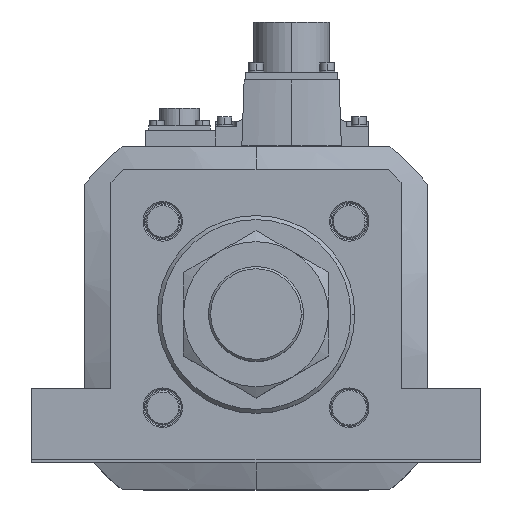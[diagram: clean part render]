
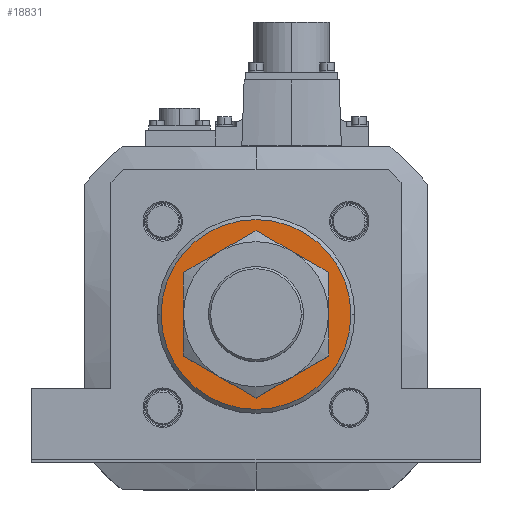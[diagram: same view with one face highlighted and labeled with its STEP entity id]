
A CAD part, top view. The second image highlights one B-rep face of the part: STEP entity #18831.
In plain terms, the highlighted planar face has unit normal (0, 0, 1).
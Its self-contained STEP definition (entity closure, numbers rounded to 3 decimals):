
#177 = CARTESIAN_POINT ( 'NONE',  ( 0., 0., 546. ) ) ;
#441 = CARTESIAN_POINT ( 'NONE',  ( 23., 0., 546. ) ) ;
#746 = AXIS2_PLACEMENT_3D ( 'NONE', #177, #5982, #37984 ) ;
#3300 = CARTESIAN_POINT ( 'NONE',  ( 0., 0., 546. ) ) ;
#4454 = CIRCLE ( 'NONE', #746, 36. ) ;
#5233 = ORIENTED_EDGE ( 'NONE', *, *, #29556, .T. ) ;
#5637 = CARTESIAN_POINT ( 'NONE',  ( -23., 0., 546. ) ) ;
#5662 = DIRECTION ( 'NONE',  ( 0., 0., 1. ) ) ;
#5982 = DIRECTION ( 'NONE',  ( 0., 0., 1. ) ) ;
#6223 = CIRCLE ( 'NONE', #17046, 36. ) ;
#7573 = CARTESIAN_POINT ( 'NONE',  ( 36., 0., 546. ) ) ;
#8073 = EDGE_CURVE ( 'NONE', #27049, #9568, #9968, .T. ) ;
#8372 = VERTEX_POINT ( 'NONE', #7573 ) ;
#8482 = DIRECTION ( 'NONE',  ( 1., 0., 0. ) ) ;
#8728 = EDGE_CURVE ( 'NONE', #12368, #8372, #4454, .T. ) ;
#9568 = VERTEX_POINT ( 'NONE', #5637 ) ;
#9968 = CIRCLE ( 'NONE', #25937, 23. ) ;
#11617 = FACE_BOUND ( 'NONE', #33990, .T. ) ;
#11728 = DIRECTION ( 'NONE',  ( 1., 0., 0. ) ) ;
#12235 = DIRECTION ( 'NONE',  ( 0., 0., -1. ) ) ;
#12368 = VERTEX_POINT ( 'NONE', #24799 ) ;
#12633 = AXIS2_PLACEMENT_3D ( 'NONE', #3300, #21335, #23936 ) ;
#13881 = CARTESIAN_POINT ( 'NONE',  ( 0., 0., 546. ) ) ;
#15417 = ORIENTED_EDGE ( 'NONE', *, *, #17098, .T. ) ;
#16439 = DIRECTION ( 'NONE',  ( 1., 0., 0. ) ) ;
#17046 = AXIS2_PLACEMENT_3D ( 'NONE', #31866, #5662, #8482 ) ;
#17098 = EDGE_CURVE ( 'NONE', #8372, #12368, #6223, .T. ) ;
#18367 = PLANE ( 'NONE',  #12633 ) ;
#18831 = ADVANCED_FACE ( 'NONE', ( #11617, #24568 ), #18367, .T. ) ;
#21335 = DIRECTION ( 'NONE',  ( 0., 0., 1. ) ) ;
#23862 = ORIENTED_EDGE ( 'NONE', *, *, #8728, .T. ) ;
#23863 = CARTESIAN_POINT ( 'NONE',  ( 0., 0., 546. ) ) ;
#23936 = DIRECTION ( 'NONE',  ( 1., 0., 0. ) ) ;
#24440 = CIRCLE ( 'NONE', #29592, 23. ) ;
#24568 = FACE_OUTER_BOUND ( 'NONE', #31548, .T. ) ;
#24799 = CARTESIAN_POINT ( 'NONE',  ( -36., 0., 546. ) ) ;
#25937 = AXIS2_PLACEMENT_3D ( 'NONE', #23863, #12235, #11728 ) ;
#27049 = VERTEX_POINT ( 'NONE', #441 ) ;
#29556 = EDGE_CURVE ( 'NONE', #9568, #27049, #24440, .T. ) ;
#29592 = AXIS2_PLACEMENT_3D ( 'NONE', #13881, #31689, #16439 ) ;
#29731 = ORIENTED_EDGE ( 'NONE', *, *, #8073, .T. ) ;
#31548 = EDGE_LOOP ( 'NONE', ( #23862, #15417 ) ) ;
#31689 = DIRECTION ( 'NONE',  ( 0., 0., -1. ) ) ;
#31866 = CARTESIAN_POINT ( 'NONE',  ( 0., 0., 546. ) ) ;
#33990 = EDGE_LOOP ( 'NONE', ( #29731, #5233 ) ) ;
#37984 = DIRECTION ( 'NONE',  ( 1., 0., 0. ) ) ;
